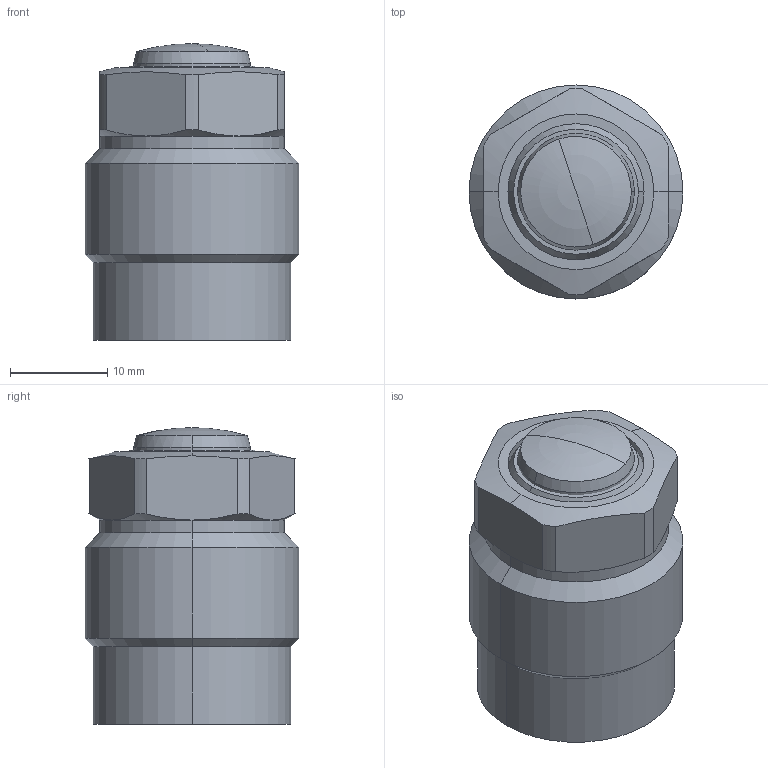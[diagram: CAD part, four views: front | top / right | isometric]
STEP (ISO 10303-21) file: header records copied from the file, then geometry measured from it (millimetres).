
FILE_DESCRIPTION((' '),'2;1');
FILE_NAME( 'TGP22-RS.x_t.stp', '2025-02-10T16:03:52', (' '), ('--- Datakit www.datakit.com---'), ' Datakit CrossCadWare V2024.1 Dec 21 2023', 'Mastercam 2025', ' ');
FILE_SCHEMA(('AUTOMOTIVE_DESIGN { 1 0 10303 214 1 1 1 1 }'));
Length unit declared in the file: millimetre
Products named in the file (1): TGP22-RS
Bounding box: 22 x 22 x 30.5 mm (x, y, z)
Volume: 10176.5 mm3; surface area: 3276.2 mm2
Topology: 2 solids, 2 shells, 65 faces, 151 edges, 93 vertices
Faces by surface type: cylinder 26, cone 18, plane 15, torus 6
Entity records: 1928 total; most frequent: CARTESIAN_POINT 410, DIRECTION 340, ORIENTED_EDGE 294, AXIS2_PLACEMENT_3D 147, EDGE_CURVE 147, VERTEX_POINT 93, CIRCLE 81, EDGE_LOOP 72
